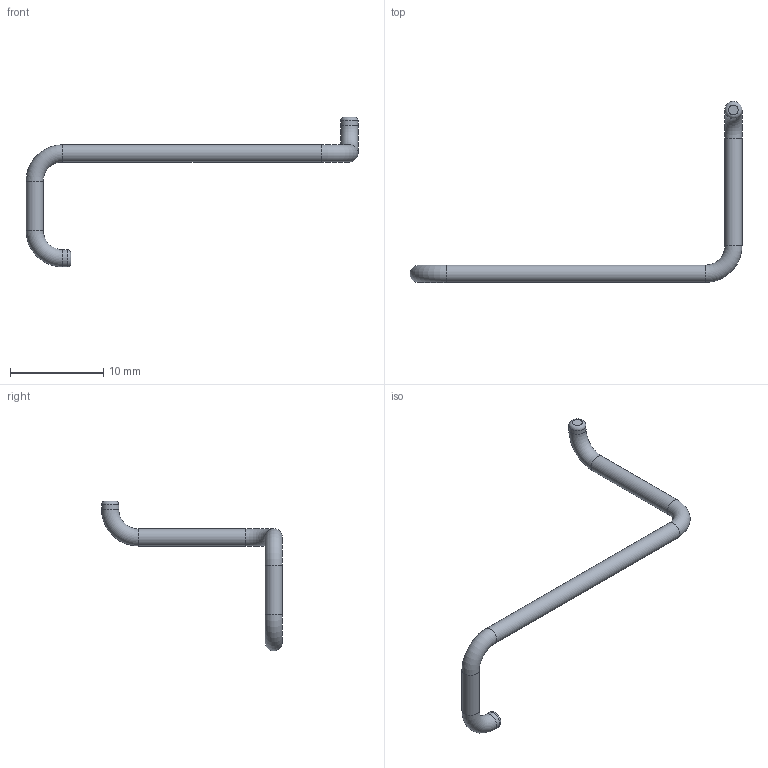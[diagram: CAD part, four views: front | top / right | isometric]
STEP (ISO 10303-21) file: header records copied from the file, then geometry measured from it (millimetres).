
FILE_DESCRIPTION(('Open CASCADE Model'),'2;1');
FILE_NAME('CUT_ROUTE_06_RADIAL_CLEARANCE_0p4','2026-09-15T14:21:40',( 'Author'),('Open CASCADE'),'Open CASCADE STEP processor 7.9', 'build123d','Unknown');
FILE_SCHEMA(('AUTOMOTIVE_DESIGN { 1 0 10303 214 1 1 1 1 }'));
Length unit declared in the file: millimetre
Products named in the file (1): CUT_ROUTE_06_RADIAL_CLEARANCE_0p4
Bounding box: 35.62 x 19.41 x 16.09 mm (x, y, z)
Volume: 175 mm3; surface area: 382.4 mm2
Topology: 1 solids, 1 shells, 13 faces, 23 edges, 12 vertices
Faces by surface type: torus 6, cylinder 5, plane 2
Full cylindrical faces by diameter (mm): 1.85 x5
Entity records: 607 total; most frequent: CARTESIAN_POINT 112, DIRECTION 98, ORIENTED_EDGE 46, PCURVE 46, DEFINITIONAL_REPRESENTATION 46, AXIS2_PLACEMENT_3D 32, LINE 32, VECTOR 32
